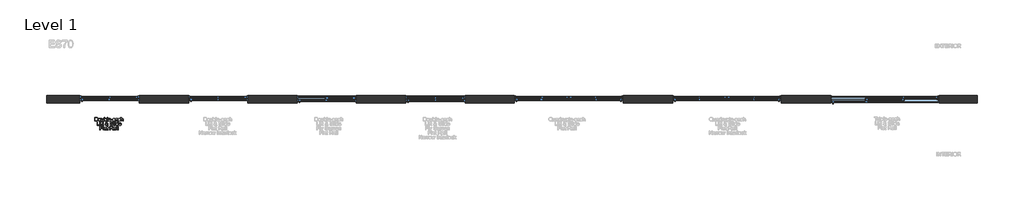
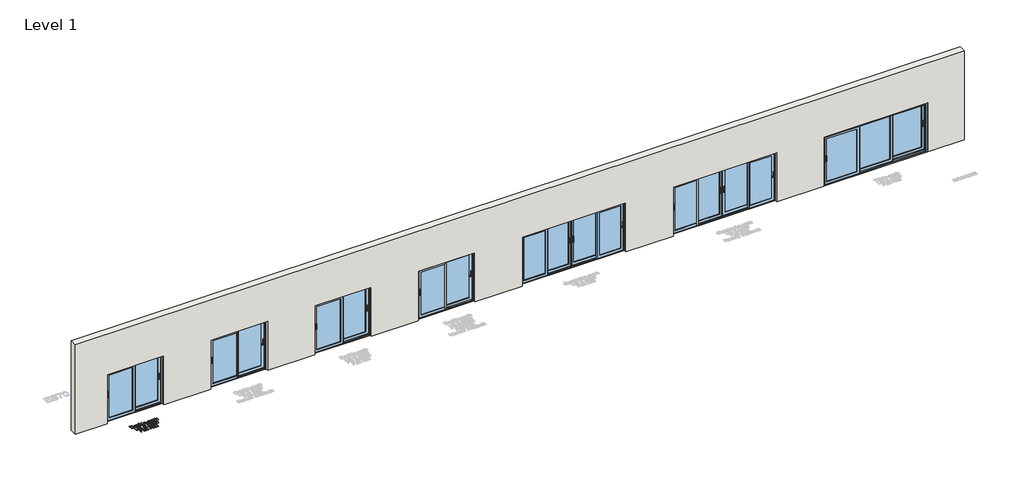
# One storey, part 1 of 7: 7 windows, 1 proxy, 1 wall.
"""IFC4 building model written with IfcOpenShell, lengths in millimetres."""

from ifc_helpers import new_model, si_unit, frame, origin, origin_with_axes, place, context, project, spatial, polyline, outline, extrude, transform, mapped, element, save
from components import type_1_8090e060, type_1_7f6ca0e9, type_1_3cb6bbd2, type_1_b3d38bae, type_1_2b06f44e, type_1_74244e9f, type_1_a0107564

model = new_model("IFC4")

# Units and contexts
model_context = context("Model", 3, world=origin())
ifc_project = project(units=[si_unit("LENGTHUNIT", "METRE", prefix="MILLI")], contexts=[model_context])

# Site, building, storey
site = spatial("IfcSite", under=ifc_project)
building = spatial("IfcBuilding", under=site)
storey = spatial("IfcBuildingStorey", under=building, Name="Level 1", Elevation=0.0)

# Proxy
placement = place(None, origin())
element("IfcBuildingElementProxy", 1, Name="150mm Arial", ObjectType="150mm Arial", at=placement, inside=storey, context=model_context, shape_type="SweptSolid", body=[
    extrude(outline(polyline([(-6211.5990485, -897.6627533), (-6211.5990485, -746.9782881), (-6159.6173226, -746.9782881), (-6132.7251487, -749.1487919), (-6110.5786526, -759.9277343), (-6100.1583951, -771.4056526), (-6092.7363758, -785.679474), (-6088.2942007, -802.4732871), (-6086.8134757, -821.5111803), (-6090.8233895, -851.9166272), (-6101.1240853, -873.8607883), (-6114.8828719, -887.5276044), (-6132.8906956, -895.0875794), (-6157.115725, -897.6627533), (-6211.5990485, -897.6627533)]), holes=[polyline([(-6192.7634903, -878.8271952), (-6159.4333816, -878.8271952), (-6135.1899581, -876.1048684), (-6121.2104423, -868.4161347), (-6109.7509181, -849.7093353), (-6105.6490339, -821.2168747), (-6107.6585893, -800.6890594), (-6113.6872555, -785.5323212), (-6122.5945983, -775.1212607), (-6133.2401835, -768.8304786), (-6159.9484164, -765.8138463), (-6192.7634903, -765.8138463), (-6192.7634903, -878.8271952)])]), origin_with_axes(), (0.0, 0.0, 1.0), 10.0),
    extrude(outline(polyline([(-6067.9779176, -842.3333013), (-6063.9036245, -815.6526596), (-6051.6807452, -796.8998749), (-6036.5791893, -787.712022), (-6018.4977892, -784.6494044), (-5998.7103364, -788.3788081), (-5982.9052062, -799.5670193), (-5972.5447295, -817.3311212), (-5969.0912373, -840.7881969), (-5970.6179475, -859.8168931), (-5975.1980784, -874.3022466), (-5982.6982726, -885.150167), (-5992.9851728, -893.2665635), (-6005.2034536, -898.3295395), (-6018.4977892, -900.0171981), (-6038.5243653, -896.30159), (-6054.3111014, -885.1547655), (-6064.5612135, -867.0181831), (-6067.9779176, -842.3333013)]), holes=[polyline([(-6049.1423594, -842.2965131), (-6046.9626586, -859.343245), (-6040.4235561, -871.4879494), (-6030.5827127, -878.7582173), (-6018.4977892, -881.18164), (-6006.468048, -878.7444217), (-5996.6455987, -871.4327671), (-5990.1064962, -859.1271143), (-5987.9267954, -841.7079019), (-5990.1202918, -825.1578106), (-5996.700781, -813.1786531), (-6006.5370258, -805.9083852), (-6018.4977892, -803.4849626), (-6030.5827127, -805.8991882), (-6040.4235561, -813.141865), (-6046.9626586, -825.2589782), (-6049.1423594, -842.2965131)])]), origin_with_axes(), (0.0, 0.0, 1.0), 10.0),
    extrude(outline(polyline([(-5877.2678913, -897.6627533), (-5877.2678913, -878.6432542), (-5892.0199593, -894.6737121), (-5911.2601876, -900.0171981), (-5928.9737057, -896.2648018), (-5941.1873879, -886.8470227), (-5946.7975883, -872.9778715), (-5947.9012343, -855.4666885), (-5947.9012343, -787.0038492), (-5929.0656762, -787.0038492), (-5929.0656762, -846.6007324), (-5927.925242, -865.8041726), (-5920.4756316, -877.0797557), (-5906.4409335, -881.18164), (-5890.7139782, -876.9877852), (-5880.3213118, -865.5650493), (-5877.2678913, -844.5773814), (-5877.2678913, -787.0038492), (-5858.4323331, -787.0038492), (-5858.4323331, -897.6627533), (-5877.2678913, -897.6627533)])), origin_with_axes(), (0.0, 0.0, 1.0), 10.0),
    extrude(outline(polyline([(-5813.6978825, -897.6627533), (-5832.5334406, -897.6627533), (-5832.5334406, -746.9782881), (-5813.6978825, -746.9782881), (-5813.6978825, -802.8595632), (-5800.509313, -789.2019441), (-5784.1201701, -784.6494044), (-5765.2478237, -788.7512887), (-5750.6061203, -800.2843892), (-5741.6114055, -818.2186365), (-5738.3556499, -840.6778323), (-5741.7263687, -865.8225667), (-5751.838525, -884.5293661), (-5766.677965, -896.1452401), (-5784.2305347, -900.0171981), (-5800.9783625, -895.0232), (-5813.6978825, -880.0412058), (-5813.6978825, -897.6627533)]), holes=[polyline([(-5813.6978825, -841.5607491), (-5812.4102955, -857.2693103), (-5808.5475346, -867.9010999), (-5798.6791, -877.861505), (-5785.8492155, -881.18164), (-5774.9783025, -878.7352247), (-5765.6892821, -871.3959789), (-5759.3157266, -859.2098878), (-5757.191208, -842.2229367), (-5759.2283546, -824.9876652), (-5765.3397942, -812.9395299), (-5774.3391075, -805.8486044), (-5785.0398751, -803.4849626), (-5795.910788, -805.9313778), (-5805.1998084, -813.2706236), (-5811.573364, -825.2359855), (-5813.6978825, -841.5607491)])]), origin_with_axes(), (0.0, 0.0, 1.0), 10.0),
    extrude(outline(polyline([(-5717.165647, -897.6627533), (-5717.165647, -746.9782881), (-5698.3300888, -746.9782881), (-5698.3300888, -897.6627533), (-5717.165647, -897.6627533)])), origin_with_axes(), (0.0, 0.0, 1.0), 10.0),
    extrude(outline(polyline([(-5592.6008034, -864.7005266), (-5574.1331272, -867.0549713), (-5580.7871928, -880.9701078), (-5591.4051869, -891.3719712), (-5605.7479862, -897.8558914), (-5623.5764674, -900.0171981), (-5645.6769782, -896.2877944), (-5662.6823235, -885.0995832), (-5673.5256453, -867.1791315), (-5677.1400859, -843.2530063), (-5673.4888571, -818.5221391), (-5662.5351707, -800.0268718), (-5645.7597517, -788.4937713), (-5624.6433252, -784.6494044), (-5604.1844877, -788.4845742), (-5587.8367316, -799.9900836), (-5577.1175699, -818.4485627), (-5573.544516, -843.1426417), (-5573.6548806, -848.2194132), (-5658.3045277, -848.2194132), (-5655.0441735, -862.3184907), (-5647.470403, -872.6835659), (-5636.5397092, -879.0571214), (-5623.2085854, -881.18164), (-5604.7409092, -877.2453026), (-5592.6008034, -864.7005266)]), holes=[polyline([(-5658.3045277, -829.383855), (-5592.3800742, -829.383855), (-5594.927657, -819.4326471), (-5599.9216551, -812.3141305), (-5610.9029326, -805.6922545), (-5624.7169016, -803.4849626), (-5637.4134289, -805.2461976), (-5647.9118614, -810.5299028), (-5655.2097204, -818.765861), (-5658.3045277, -829.383855)])]), origin_with_axes(), (0.0, 0.0, 1.0), 10.0),
    extrude(outline(polyline([(-5564.126737, -852.9283027), (-5564.126737, -834.0927446), (-5505.2656177, -834.0927446), (-5505.2656177, -852.9283027), (-5564.126737, -852.9283027)])), origin_with_axes(), (0.0, 0.0, 1.0), 10.0),
    extrude(outline(polyline([(-5491.1389491, -864.7005266), (-5472.303391, -862.3460818), (-5469.3327439, -870.4026975), (-5463.5845877, -876.3255976), (-5443.6085953, -881.18164), (-5424.4051552, -876.7302678), (-5418.1511613, -866.2824192), (-5419.7238568, -861.4815591), (-5424.4419434, -857.8211333), (-5443.8293245, -852.4500561), (-5472.1930264, -843.2346122), (-5484.5722555, -832.4740638), (-5488.7845044, -817.2805374), (-5485.39999, -803.2458393), (-5476.1661519, -792.5220791), (-5464.191593, -786.9486669), (-5447.9863911, -784.6494044), (-5425.0673428, -788.3466185), (-5410.4992158, -798.3530087), (-5404.0244927, -815.2571864), (-5422.8600508, -817.6116312), (-5429.9417792, -807.2189648), (-5446.5148631, -803.4849626), (-5464.5410809, -807.0534179), (-5469.9489462, -815.367551), (-5467.704866, -820.8489927), (-5460.6783199, -825.0060593), (-5444.4547239, -829.015973), (-5416.808392, -837.8819291), (-5403.9693104, -847.9251076), (-5399.3156031, -864.2958564), (-5404.7786508, -882.3220741), (-5420.5423942, -895.4002791), (-5443.8661127, -900.0171981), (-5462.8580207, -897.791512), (-5476.7179749, -891.1144538), (-5485.9702071, -880.0595999), (-5491.1389491, -864.7005266)])), origin_with_axes(), (0.0, 0.0, 1.0), 10.0),
    extrude(outline(polyline([(-5307.4922571, -883.5360847), (-5325.7575982, -896.30159), (-5345.9359256, -900.0171981), (-5361.6766765, -897.782315), (-5373.287952, -891.0776656), (-5380.4478553, -880.8965314), (-5382.8344897, -868.2321937), (-5379.2292462, -853.3329729), (-5369.7562848, -842.5172423), (-5356.5677153, -836.3368247), (-5340.2705429, -833.5041334), (-5307.6026217, -827.0294103), (-5307.4922571, -822.8355555), (-5308.7890412, -814.4294519), (-5312.6793933, -808.9296161), (-5321.3798024, -804.846126), (-5333.5015142, -803.4849626), (-5352.5578015, -807.1086002), (-5361.6444868, -819.966076), (-5380.480045, -817.6116312), (-5372.3314588, -799.2175314), (-5355.9239218, -788.438589), (-5331.073493, -784.6494044), (-5308.2464152, -787.9971306), (-5295.3521513, -796.4032342), (-5289.576404, -809.1871335), (-5288.656699, -825.6682469), (-5288.656699, -849.10233), (-5287.7002058, -881.8254334), (-5283.9478094, -897.6627533), (-5302.7833676, -897.6627533), (-5307.4922571, -883.5360847)]), holes=[polyline([(-5307.4922571, -845.8649684), (-5337.8793099, -851.6407157), (-5354.0845118, -854.6941363), (-5361.4237576, -859.6605432), (-5363.9989316, -866.9078185), (-5358.3887312, -877.0981498), (-5341.9260119, -881.18164), (-5322.8697245, -876.6750855), (-5310.5824659, -865.7673844), (-5307.6026217, -851.1992574), (-5307.4922571, -845.8649684)])]), origin_with_axes(), (0.0, 0.0, 1.0), 10.0),
    extrude(outline(polyline([(-5269.8211408, -864.7005266), (-5250.9855827, -862.3460818), (-5248.0149356, -870.4026975), (-5242.2667794, -876.3255976), (-5222.290787, -881.18164), (-5203.0873469, -876.7302678), (-5196.833353, -866.2824192), (-5198.4060485, -861.4815591), (-5203.1241351, -857.8211333), (-5222.5115162, -852.4500561), (-5250.8752181, -843.2346122), (-5263.2544472, -832.4740638), (-5267.4666961, -817.2805374), (-5264.0821817, -803.2458393), (-5254.8483436, -792.5220791), (-5242.8737847, -786.9486669), (-5226.6685828, -784.6494044), (-5203.7495345, -788.3466185), (-5189.1814075, -798.3530087), (-5182.7066844, -815.2571864), (-5201.5422425, -817.6116312), (-5208.6239709, -807.2189648), (-5225.1970548, -803.4849626), (-5243.2232726, -807.0534179), (-5248.6311379, -815.367551), (-5246.3870577, -820.8489927), (-5239.3605116, -825.0060593), (-5223.1369156, -829.015973), (-5195.4905837, -837.8819291), (-5182.6515021, -847.9251076), (-5177.9977948, -864.2958564), (-5183.4608425, -882.3220741), (-5199.2245859, -895.4002791), (-5222.5483044, -900.0171981), (-5241.5402124, -897.791512), (-5255.4001666, -891.1144538), (-5264.6523988, -880.0595999), (-5269.8211408, -864.7005266)])), origin_with_axes(), (0.0, 0.0, 1.0), 10.0),
    extrude(outline(polyline([(-5156.8077919, -897.6627533), (-5156.8077919, -746.9782881), (-5137.9722338, -746.9782881), (-5137.9722338, -802.3813166), (-5123.2845451, -789.0823825), (-5105.193948, -784.6494044), (-5084.0407333, -789.4870527), (-5071.2016516, -802.8595632), (-5067.3388907, -827.6180215), (-5067.3388907, -897.6627533), (-5086.1744488, -897.6627533), (-5086.1744488, -829.567796), (-5087.673568, -817.7771781), (-5092.1709254, -809.7021683), (-5099.4182007, -805.039264), (-5109.1670735, -803.4849626), (-5124.5997232, -807.6788173), (-5134.9004191, -819.046371), (-5137.9722338, -838.8752105), (-5137.9722338, -897.6627533), (-5156.8077919, -897.6627533)])), origin_with_axes(), (0.0, 0.0, 1.0), 10.0),
    extrude(outline(polyline([(-6126.8390368, -1080.6249801), (-6126.8390368, -929.9405149), (-6108.0034786, -929.9405149), (-6108.0034786, -1061.789422), (-6032.661246, -1061.789422), (-6032.661246, -1080.6249801), (-6126.8390368, -1080.6249801)])), origin_with_axes(), (0.0, 0.0, 1.0), 10.0),
    extrude(outline(polyline([(-6013.8256879, -948.776073), (-6013.8256879, -929.9405149), (-5994.9901297, -929.9405149), (-5994.9901297, -948.776073), (-6013.8256879, -948.776073)])), origin_with_axes(), (0.0, 0.0, 1.0), 10.0),
    extrude(outline(polyline([(-6013.8256879, -1080.6249801), (-6013.8256879, -969.966076), (-5994.9901297, -969.966076), (-5994.9901297, -1080.6249801), (-6013.8256879, -1080.6249801)])), origin_with_axes(), (0.0, 0.0, 1.0), 10.0),
    extrude(outline(polyline([(-5962.0279029, -1080.6249801), (-5962.0279029, -988.8016341), (-5978.5090163, -988.8016341), (-5978.5090163, -969.966076), (-5962.0279029, -969.966076), (-5962.0279029, -958.8192515), (-5960.0413402, -943.1106903), (-5950.4028319, -931.8902895), (-5931.4201209, -927.5860701), (-5914.2400318, -929.6462093), (-5916.9991467, -947.3045451), (-5927.8516656, -946.4216283), (-5939.7158599, -949.5486252), (-5943.1923448, -961.2104845), (-5943.1923448, -969.966076), (-5922.0023419, -969.966076), (-5922.0023419, -988.8016341), (-5943.1923448, -988.8016341), (-5943.1923448, -1080.6249801), (-5962.0279029, -1080.6249801)])), origin_with_axes(), (0.0, 0.0, 1.0), 10.0),
    extrude(outline(polyline([(-5865.4956674, -1064.9164189), (-5863.1412226, -1081.1768031), (-5877.2311031, -1082.9794249), (-5893.0132407, -1079.8524279), (-5900.8859153, -1071.6486594), (-5903.1667837, -1050.2747155), (-5903.1667837, -988.8016341), (-5917.2934523, -988.8016341), (-5917.2934523, -969.966076), (-5903.1667837, -969.966076), (-5903.1667837, -943.0739021), (-5884.3312256, -932.0006541), (-5884.3312256, -969.966076), (-5865.4956674, -969.966076), (-5865.4956674, -988.8016341), (-5884.3312256, -988.8016341), (-5884.3312256, -1049.7228925), (-5883.3379442, -1059.4349772), (-5880.1189767, -1062.8746738), (-5873.6994359, -1064.1438667), (-5865.4956674, -1064.9164189)])), origin_with_axes(), (0.0, 0.0, 1.0), 10.0),
    extrude(outline(polyline([(-5701.3835094, -1062.0101512), (-5721.3595017, -1077.7371064), (-5744.7200084, -1082.9794249), (-5765.5053411, -1079.0982698), (-5781.5082079, -1067.4548047), (-5789.7579617, -1054.054703), (-5792.5078796, -1039.1646793), (-5790.2959891, -1025.9669127), (-5783.6603176, -1014.1119154), (-5772.6284563, -1003.6088844), (-5757.2279962, -994.4670168), (-5770.3797776, -975.4107295), (-5773.6723214, -961.2840609), (-5771.0787533, -948.5645409), (-5763.2980492, -937.6292486), (-5751.5902047, -930.0968647), (-5737.2152157, -927.5860701), (-5723.5392025, -929.9865001), (-5712.6039102, -937.1877902), (-5705.4302113, -947.7552005), (-5703.0389783, -960.2539913), (-5704.8094104, -970.7478252), (-5710.1207067, -980.4507128), (-5731.365892, -997.4836492), (-5704.1058361, -1031.4391574), (-5695.975644, -1010.5802482), (-5677.1400859, -1014.6637384), (-5690.4574141, -1045.6761906), (-5667.7223068, -1068.4848743), (-5681.8489754, -1082.9794249), (-5701.3835094, -1062.0101512)]), holes=[polyline([(-5740.8940356, -985.6010608), (-5725.4062036, -973.9208074), (-5721.8745365, -962.8291653), (-5726.5282437, -951.0017591), (-5738.1717089, -946.4216283), (-5750.0726914, -950.9649709), (-5754.8367633, -962.0566131), (-5753.2180825, -968.9544005), (-5748.3252519, -976.6247401), (-5740.8940356, -985.6010608)]), polyline([(-5714.0018618, -1048.4353055), (-5747.6262762, -1006.4599699), (-5768.3196384, -1022.2421075), (-5773.6723214, -1036.6630817), (-5771.8421085, -1045.5474319), (-5766.3514697, -1054.7628758), (-5757.5039077, -1061.798619), (-5745.6029252, -1064.1438667), (-5728.2940773, -1059.766071), (-5714.0018618, -1048.4353055)])]), origin_with_axes(), (0.0, 0.0, 1.0), 10.0),
    extrude(outline(polyline([(-5594.734519, -1028.8271952), (-5575.8989608, -1028.8271952), (-5569.8289079, -1047.6811474), (-5555.0032635, -1059.6005241), (-5532.415309, -1064.1438667), (-5512.7336222, -1060.7041701), (-5500.0232993, -1051.2496028), (-5495.8478387, -1038.6128563), (-5498.9748356, -1026.8590265), (-5511.777129, -1018.3057701), (-5539.2027318, -1011.1136771), (-5568.7252619, -1001.8246567), (-5584.7465228, -987.8083527), (-5590.0256294, -969.0831592), (-5588.3931531, -958.0512978), (-5583.495724, -947.7643976), (-5575.4621009, -939.0455943), (-5564.4210426, -932.7180239), (-5536.4987991, -927.5860701), (-5506.7003575, -932.9571472), (-5495.2776216, -939.5882202), (-5486.8347298, -948.7392848), (-5481.4912438, -959.840124), (-5479.3667253, -972.3205207), (-5498.2022834, -972.3205207), (-5501.6603742, -961.0817258), (-5508.8708613, -952.9699278), (-5520.1372474, -948.0587031), (-5535.7630351, -946.4216283), (-5551.7567049, -948.040309), (-5562.7287854, -952.8963514), (-5569.0747498, -960.0424591), (-5571.1900713, -968.5313362), (-5569.6909521, -975.7694144), (-5565.1935947, -981.591147), (-5534.43866, -992.1125721), (-5501.1085512, -1001.5671393), (-5490.3709955, -1008.4005474), (-5482.8799983, -1016.8342421), (-5478.47921, -1026.7762531), (-5477.0122805, -1038.1346097), (-5478.6999392, -1049.7458851), (-5483.7629151, -1060.6673819), (-5491.9942748, -1070.0667668), (-5503.1870845, -1077.1117071), (-5516.646967, -1081.5124954), (-5531.679545, -1082.9794249), (-5550.1334256, -1081.3975323), (-5565.3223534, -1076.6518546), (-5577.4210726, -1068.7239976), (-5586.6043269, -1057.5955672), (-5592.4996358, -1044.0391157), (-5594.734519, -1028.8271952)])), origin_with_axes(), (0.0, 0.0, 1.0), 10.0),
    extrude(outline(polyline([(-5451.113388, -1080.6249801), (-5451.113388, -929.9405149), (-5432.2778299, -929.9405149), (-5432.2778299, -1080.6249801), (-5451.113388, -1080.6249801)])), origin_with_axes(), (0.0, 0.0, 1.0), 10.0),
    extrude(outline(polyline([(-5404.0244927, -948.776073), (-5404.0244927, -929.9405149), (-5385.1889345, -929.9405149), (-5385.1889345, -948.776073), (-5404.0244927, -948.776073)])), origin_with_axes(), (0.0, 0.0, 1.0), 10.0),
    extrude(outline(polyline([(-5404.0244927, -1080.6249801), (-5404.0244927, -969.966076), (-5385.1889345, -969.966076), (-5385.1889345, -1080.6249801), (-5404.0244927, -1080.6249801)])), origin_with_axes(), (0.0, 0.0, 1.0), 10.0),
    extrude(outline(polyline([(-5288.656699, -1080.6249801), (-5288.656699, -1062.8562797), (-5301.1187016, -1077.9486386), (-5318.344776, -1082.9794249), (-5330.52167, -1081.158409), (-5341.6684945, -1075.6953614), (-5351.1046677, -1066.9719596), (-5358.1496079, -1055.3698811), (-5362.5366007, -1041.3581756), (-5363.9989316, -1025.4058926), (-5358.6094604, -995.42351), (-5351.8772198, -983.5317245), (-5342.4594408, -974.7853301), (-5331.0688945, -969.4050559), (-5318.4183524, -967.6116312), (-5301.0543222, -972.743585), (-5288.656699, -986.0793073), (-5288.656699, -929.9405149), (-5269.8211408, -929.9405149), (-5269.8211408, -1080.6249801), (-5288.656699, -1080.6249801)]), holes=[polyline([(-5345.1633734, -1025.3323162), (-5343.0388549, -1042.3698511), (-5336.6652993, -1054.4869644), (-5327.4038701, -1061.7296411), (-5316.6157306, -1064.1438667), (-5305.8321896, -1061.8400057), (-5296.8052852, -1054.9284227), (-5290.6938455, -1043.2803591), (-5288.656699, -1026.767056), (-5290.7306337, -1008.7132471), (-5296.952438, -996.1960622), (-5306.2092687, -988.8844076), (-5317.3882828, -986.4471893), (-5328.2867869, -988.7878385), (-5337.2171223, -995.8097861), (-5343.1768107, -1007.871717), (-5345.1633734, -1025.3323162)])]), origin_with_axes(), (0.0, 0.0, 1.0), 10.0),
    extrude(outline(polyline([(-5164.0918554, -1047.6627533), (-5145.6241792, -1050.0171981), (-5152.2782448, -1063.9323346), (-5162.8962389, -1074.334198), (-5177.2390382, -1080.8181182), (-5195.0675194, -1082.9794249), (-5217.1680303, -1079.2500212), (-5234.1733755, -1068.06181), (-5245.0166973, -1050.1413583), (-5248.6311379, -1026.215233), (-5244.9799091, -1001.4843659), (-5234.0262227, -982.9890986), (-5217.2508037, -971.455998), (-5196.1343772, -967.6116312), (-5175.6755397, -971.446801), (-5159.3277836, -982.9523104), (-5148.6086219, -1001.4107895), (-5145.0355681, -1026.1048684), (-5145.1459327, -1031.18164), (-5229.7955797, -1031.18164), (-5226.5352256, -1045.2807174), (-5218.961455, -1055.6457926), (-5208.0307612, -1062.0193482), (-5194.6996374, -1064.1438667), (-5176.2319612, -1060.2075294), (-5164.0918554, -1047.6627533)]), holes=[polyline([(-5229.7955797, -1012.3460818), (-5163.8711262, -1012.3460818), (-5166.418709, -1002.3948738), (-5171.4127071, -995.2763572), (-5182.3939847, -988.6544813), (-5196.2079536, -986.4471893), (-5208.9044809, -988.2084244), (-5219.4029134, -993.4921296), (-5226.7007725, -1001.7280877), (-5229.7955797, -1012.3460818)])]), origin_with_axes(), (0.0, 0.0, 1.0), 10.0),
    extrude(outline(polyline([(-6009.1167983, -1263.5872069), (-6009.1167983, -1112.9027417), (-5907.8756733, -1112.9027417), (-5907.8756733, -1131.7382998), (-5990.2812402, -1131.7382998), (-5990.2812402, -1176.4727504), (-5919.6478971, -1176.4727504), (-5919.6478971, -1195.3083086), (-5990.2812402, -1195.3083086), (-5990.2812402, -1263.5872069), (-6009.1167983, -1263.5872069)])), origin_with_axes(), (0.0, 0.0, 1.0), 10.0),
    extrude(outline(polyline([(-5884.3312256, -1263.5872069), (-5884.3312256, -1112.9027417), (-5865.4956674, -1112.9027417), (-5865.4956674, -1263.5872069), (-5884.3312256, -1263.5872069)])), origin_with_axes(), (0.0, 0.0, 1.0), 10.0),
    extrude(outline(polyline([(-5766.6089871, -1249.4605383), (-5784.8743282, -1262.2260435), (-5805.0526556, -1265.9416516), (-5820.7934065, -1263.7067685), (-5832.4046819, -1257.0021192), (-5839.5645853, -1246.8209849), (-5841.9512197, -1234.1566473), (-5838.3459762, -1219.2574265), (-5828.8730148, -1208.4416958), (-5815.6844453, -1202.2612783), (-5799.3872729, -1199.4285869), (-5766.7193517, -1192.9538638), (-5766.6089871, -1188.7600091), (-5767.9057711, -1180.3539055), (-5771.7961232, -1174.8540696), (-5780.4965324, -1170.7705795), (-5792.6182442, -1169.4094161), (-5811.6745315, -1173.0330538), (-5820.7612168, -1185.8905295), (-5839.596775, -1183.5360847), (-5831.4481888, -1165.141985), (-5815.0406518, -1154.3630425), (-5790.190223, -1150.573858), (-5767.3631452, -1153.9215841), (-5754.4688813, -1162.3276877), (-5748.6931339, -1175.111587), (-5747.773429, -1191.5927004), (-5747.773429, -1215.0267835), (-5746.8169358, -1247.749887), (-5743.0645394, -1263.5872069), (-5761.9000976, -1263.5872069), (-5766.6089871, -1249.4605383)]), holes=[polyline([(-5766.6089871, -1211.789422), (-5796.9960399, -1217.5651693), (-5813.2012418, -1220.6185898), (-5820.5404876, -1225.5849968), (-5823.1156616, -1232.8322721), (-5817.5054611, -1243.0226033), (-5801.0427419, -1247.1060935), (-5781.9864545, -1242.5995391), (-5769.6991959, -1231.6918379), (-5766.7193517, -1217.1237109), (-5766.6089871, -1211.789422)])]), origin_with_axes(), (0.0, 0.0, 1.0), 10.0),
    extrude(outline(polyline([(-5681.8489754, -1247.8786457), (-5679.4945307, -1264.1390299), (-5693.5844111, -1265.9416516), (-5709.3665487, -1262.8146547), (-5717.2392234, -1254.6108862), (-5719.5200917, -1233.2369423), (-5719.5200917, -1171.7638609), (-5733.6467603, -1171.7638609), (-5733.6467603, -1152.9283027), (-5719.5200917, -1152.9283027), (-5719.5200917, -1126.0361289), (-5700.6845336, -1114.9628808), (-5700.6845336, -1152.9283027), (-5681.8489754, -1152.9283027), (-5681.8489754, -1171.7638609), (-5700.6845336, -1171.7638609), (-5700.6845336, -1232.6851193), (-5699.6912522, -1242.397204), (-5696.4722847, -1245.8369006), (-5690.0527439, -1247.1060935), (-5681.8489754, -1247.8786457)])), origin_with_axes(), (0.0, 0.0, 1.0), 10.0),
    extrude(outline(polyline([(-5601.7978533, -1263.5872069), (-5601.7978533, -1112.9027417), (-5536.8666811, -1112.9027417), (-5506.7187516, -1116.9678377), (-5497.4389283, -1122.5964322), (-5490.2376382, -1131.3520237), (-5485.6161207, -1142.2091411), (-5484.0756148, -1154.1423133), (-5486.6277962, -1168.9863518), (-5494.2843402, -1181.2920046), (-5507.2751731, -1190.3143105), (-5525.8302213, -1195.3083086), (-5515.1248552, -1203.3649243), (-5499.8577524, -1222.7523054), (-5474.7314121, -1263.5872069), (-5496.6203908, -1263.5872069), (-5516.2285012, -1232.3540255), (-5530.391958, -1211.6790574), (-5540.343166, -1201.9117904), (-5549.3010926, -1198.3249409), (-5560.2271878, -1197.6627533), (-5582.9622951, -1197.6627533), (-5582.9622951, -1263.5872069), (-5601.7978533, -1263.5872069)]), holes=[polyline([(-5582.9622951, -1178.8271952), (-5540.8030185, -1178.8271952), (-5519.3003159, -1176.1600507), (-5507.0866336, -1167.6251884), (-5502.911173, -1154.8412891), (-5504.9023343, -1145.6534363), (-5510.8758182, -1138.2498111), (-5521.1535214, -1133.3661776), (-5536.0573407, -1131.7382998), (-5582.9622951, -1131.7382998), (-5582.9622951, -1178.8271952)])]), origin_with_axes(), (0.0, 0.0, 1.0), 10.0),
    extrude(outline(polyline([(-5382.8344897, -1249.4605383), (-5401.0998308, -1262.2260435), (-5421.2781582, -1265.9416516), (-5437.0189091, -1263.7067685), (-5448.6301846, -1257.0021192), (-5455.7900879, -1246.8209849), (-5458.1767224, -1234.1566473), (-5454.5714788, -1219.2574265), (-5445.0985174, -1208.4416958), (-5431.9099479, -1202.2612783), (-5415.6127755, -1199.4285869), (-5382.9448543, -1192.9538638), (-5382.8344897, -1188.7600091), (-5384.1312738, -1180.3539055), (-5388.0216259, -1174.8540696), (-5396.7220351, -1170.7705795), (-5408.8437468, -1169.4094161), (-5427.9000341, -1173.0330538), (-5436.9867194, -1185.8905295), (-5455.8222776, -1183.5360847), (-5447.6736914, -1165.141985), (-5431.2661544, -1154.3630425), (-5406.4157256, -1150.573858), (-5383.5886478, -1153.9215841), (-5370.6943839, -1162.3276877), (-5364.9186366, -1175.111587), (-5363.9989316, -1191.5927004), (-5363.9989316, -1215.0267835), (-5363.0424384, -1247.749887), (-5359.290042, -1263.5872069), (-5378.1256002, -1263.5872069), (-5382.8344897, -1249.4605383)]), holes=[polyline([(-5382.8344897, -1211.789422), (-5413.2215425, -1217.5651693), (-5429.4267444, -1220.6185898), (-5436.7659902, -1225.5849968), (-5439.3411642, -1232.8322721), (-5433.7309638, -1243.0226033), (-5417.2682445, -1247.1060935), (-5398.2119571, -1242.5995391), (-5385.9246985, -1231.6918379), (-5382.9448543, -1217.1237109), (-5382.8344897, -1211.789422)])]), origin_with_axes(), (0.0, 0.0, 1.0), 10.0),
    extrude(outline(polyline([(-5338.1000391, -1131.7382998), (-5338.1000391, -1112.9027417), (-5319.264481, -1112.9027417), (-5319.264481, -1131.7382998), (-5338.1000391, -1131.7382998)])), origin_with_axes(), (0.0, 0.0, 1.0), 10.0),
    extrude(outline(polyline([(-5338.1000391, -1263.5872069), (-5338.1000391, -1152.9283027), (-5319.264481, -1152.9283027), (-5319.264481, -1263.5872069), (-5338.1000391, -1263.5872069)])), origin_with_axes(), (0.0, 0.0, 1.0), 10.0),
    extrude(outline(polyline([(-5291.0111437, -1263.5872069), (-5291.0111437, -1112.9027417), (-5272.1755856, -1112.9027417), (-5272.1755856, -1263.5872069), (-5291.0111437, -1263.5872069)])), origin_with_axes(), (0.0, 0.0, 1.0), 10.0),
])

# Wall
element("IfcWall", 2, ObjectType="Generic - 300mm", at=placement, inside=storey, context=model_context, shape_type="SweptSolid", body=[
    extrude(outline(polyline([(0.0, 29528.8745979), (4000.0, 29528.8745979), (4000.0, -8171.1254021), (0.0, -8171.1254021), (0.0, -6821.1254021), (2200.0, -6821.1254021), (2200.0, -4421.1254021), (0.0, -4421.1254021), (0.0, -2421.1254021), (2200.0, -2421.1254021), (2200.0, -21.1254021), (0.0, -21.1254021), (0.0, 1978.8745979), (2200.0, 1978.8745979), (2200.0, 4378.8745979), (0.0, 4378.8745979), (0.0, 6378.8745979), (2200.0, 6378.8745979), (2200.0, 8778.8745979), (0.0, 8778.8745979), (0.0, 10778.8745979), (2200.0, 10778.8745979), (2200.0, 15178.8745979), (0.0, 15178.8745979), (0.0, 17178.8745979), (2200.0, 17178.8745979), (2200.0, 21578.8745979), (0.0, 21578.8745979), (0.0, 23578.9554319), (2200.0, 23578.9554319), (2200.0, 27978.9554319), (0.0, 27978.9554319), (0.0, 29528.8745979)])), frame((0.0, -168.0546028, 0.0), z_axis=(0.0, 1.0, 0.0), x_axis=(0.0, 0.0, 1.0)), (0.0, 0.0, 1.0), 300.0),
])

# Windows
type_1_shape = type_1_8090e060(model_context)
element("IfcWindow", 3, ObjectType="ETEM_ES70_Double_Lift_Sliding_FR : Type 1", at=placement, inside=storey, context=model_context, shape_type="MappedRepresentation", body=[
    mapped(type_1_shape, transform((-5621.1254021, -19.1546028, 0.0), x_axis=(1.0, 0.0, 0.0), y_axis=(0.0, 1.0, 0.0), z_axis=(0.0, 0.0, 1.0))),
])
type_1_2_shape = type_1_7f6ca0e9(model_context)
element("IfcWindow", 4, ObjectType="ETEM_ES70_Double_Fly Screen_Lift_Sliding_FR : Type 1", at=placement, inside=storey, context=model_context, shape_type="MappedRepresentation", body=[
    mapped(type_1_2_shape, transform((3178.8745979, -18.0546028, 0.0), x_axis=(1.0, 0.0, 0.0), y_axis=(0.0, 1.0, 0.0), z_axis=(0.0, 0.0, 1.0))),
])
type_1_3_shape = type_1_3cb6bbd2(model_context)
element("IfcWindow", 5, ObjectType="ETEM_ES70_Double_Lift_Sliding_FR_NI : Type 1", at=placement, inside=storey, context=model_context, shape_type="MappedRepresentation", body=[
    mapped(type_1_3_shape, transform((-1221.1254021, -19.1546028, 0.0), x_axis=(1.0, 0.0, 0.0), y_axis=(0.0, 1.0, 0.0), z_axis=(0.0, 0.0, 1.0))),
])
type_1_4_shape = type_1_b3d38bae(model_context)
element("IfcWindow", 6, ObjectType="ETEM_ES70_Double_Fly Screen_NI_Lift_Sliding_FR : Type 1", at=placement, inside=storey, context=model_context, shape_type="MappedRepresentation", body=[
    mapped(type_1_4_shape, transform((7578.8745979, -18.0546028, 0.0), x_axis=(1.0, 0.0, 0.0), y_axis=(0.0, 1.0, 0.0), z_axis=(0.0, 0.0, 1.0))),
])
type_1_5_shape = type_1_2b06f44e(model_context)
element("IfcWindow", 7, ObjectType="ETEM_ES70_Quadruple_Lift_Sliding_FR : Type 1", at=placement, inside=storey, context=model_context, shape_type="MappedRepresentation", body=[
    mapped(type_1_5_shape, transform((12978.8745979, -18.0546028, 0.0), x_axis=(1.0, 0.0, 0.0), y_axis=(0.0, 1.0, 0.0), z_axis=(0.0, 0.0, 1.0))),
])
type_1_6_shape = type_1_74244e9f(model_context)
element("IfcWindow", 8, ObjectType="ETEM_ES70_Quadruple_Lift_Sliding_NI_FR : Type 1", at=placement, inside=storey, context=model_context, shape_type="MappedRepresentation", body=[
    mapped(type_1_6_shape, transform((19378.8745979, -18.0546028, 0.0), x_axis=(1.0, 0.0, 0.0), y_axis=(0.0, 1.0, 0.0), z_axis=(0.0, 0.0, 1.0))),
])
type_1_7_shape = type_1_a0107564(model_context)
element("IfcWindow", 9, ObjectType="ETEM_ES70_Triple_Lift_Sliding_FR : Type 1", at=placement, inside=storey, context=model_context, shape_type="MappedRepresentation", body=[
    mapped(type_1_7_shape, transform((25778.9554319, -18.0546028, 0.0), x_axis=(1.0, 0.0, 0.0), y_axis=(0.0, 1.0, 0.0), z_axis=(0.0, 0.0, 1.0))),
])

save(model, "model.ifc")
